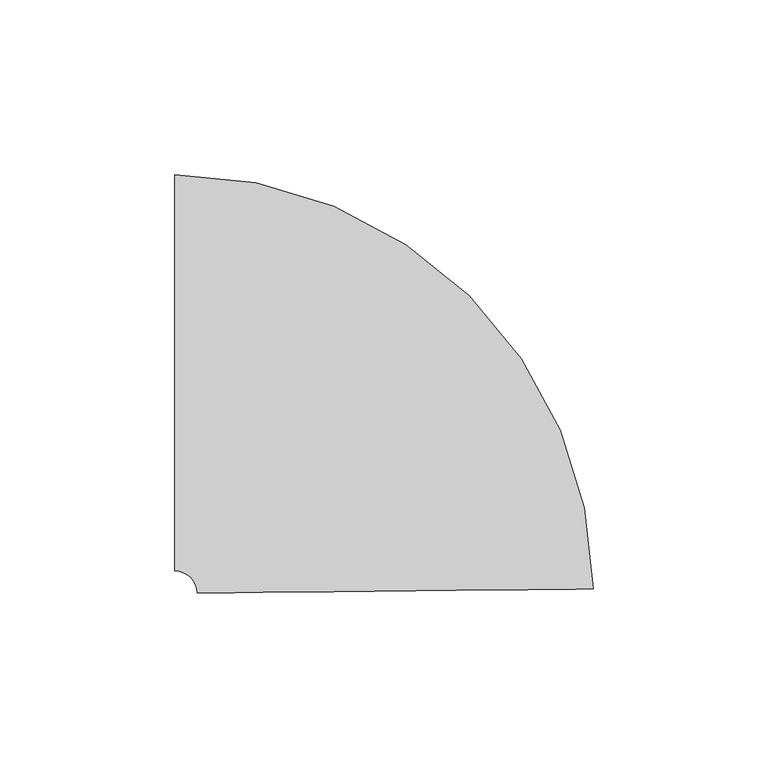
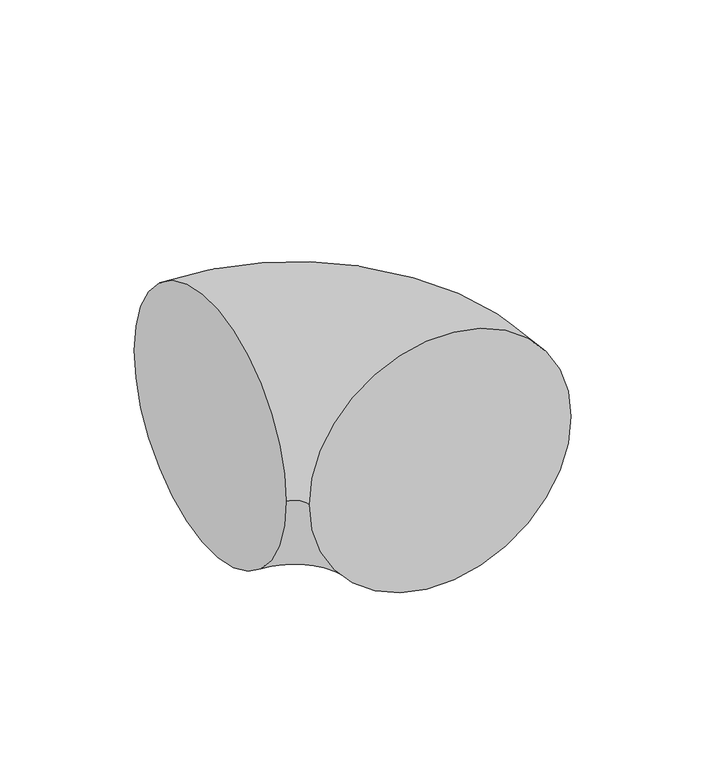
"""IFC4 building model written with IfcOpenShell, lengths in millimetres: pipe fitting geometry, M_Codo - Genérico : Estándar."""

from ifc_helpers import new_model, si_unit, point, frame, origin, place, context, project, spatial, circle_curve, ellipse_curve, trimmed, source, transform, mapped, element, save
from ifc_brep_helpers import plane_surface, revolved_surface, advanced_brep


def pipe_fitting_5746b48a(model_context):
    return source(origin(), model_context, "Body", "AdvancedBrep", [
        advanced_brep(
        [(-62.3113382, 56.5875, 0.0), (-62.3113382, -56.5875, 0.0), (57.2076873, -61.7424371, 0.0), (-55.9616556, -62.8740099, 0.0)],
        [
            (0, 1, circle_curve(frame((-62.3113382, 0.0, 0.0), z_axis=(-1.0, 0.0, 0.0), x_axis=(0.0, -1.0, 0.0)), 56.5875)),
            (1, 0, circle_curve(frame((-62.3113382, 0.0, 0.0), z_axis=(-1.0, 0.0, 0.0), x_axis=(0.0, -1.0, 0.0)), 56.5875)),
            (2, 3, circle_curve(frame((0.6230158, -62.3082235, 0.0), z_axis=(0.009998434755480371, -0.9999500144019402, 0.0), x_axis=(-0.9999500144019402, -0.009998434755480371, 0.0)), 56.5875)),
            (3, 2, circle_curve(frame((0.6230158, -62.3082235, 0.0), z_axis=(0.009998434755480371, -0.9999500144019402, 0.0), x_axis=(-0.9999500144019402, -0.009998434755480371, 0.0)), 56.5875)),
            (2, 0, circle_curve(frame((-62.3113382, -62.9375, 0.0), z_axis=(0.0, 0.0, 1.0), x_axis=(0.0, 1.0, 0.0)), 119.525)),
            (1, 3, circle_curve(frame((-62.3113382, -62.9375, 0.0), z_axis=(0.0, 0.0, -1.0), x_axis=(0.0, 1.0, 0.0)), 6.35)),
        ],
        [
            plane_surface(frame((-62.3113382, 0.0, 0.0), z_axis=(-1.0, 0.0, 0.0), x_axis=(0.0, 0.0, 1.0))),
            plane_surface(frame((0.6230158, -62.3082235, 0.0), z_axis=(0.009998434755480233, -0.9999500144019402, 0.0), x_axis=(0.0, 0.0, 1.0))),
            revolved_surface(trimmed(ellipse_curve(frame((-62.3113382, 0.0, 0.0), z_axis=(1.0, 0.0, 0.0), x_axis=(0.0, -1.0, 0.0)), 56.5875, 56.5875), [point((-62.3113382, 56.5875, 0.0))], [point((-62.3113382, -56.5875, 0.0))], True, "CARTESIAN"), (-62.3113382, -62.9375, 0.0), (0.0, 0.0, 1.0)),
            revolved_surface(trimmed(ellipse_curve(frame((-62.3113382, 0.0, 0.0), z_axis=(1.0, 0.0, 0.0), x_axis=(0.0, -1.0, 0.0)), 56.5875, 56.5875), [point((-62.3113382, -56.5875, 0.0))], [point((-62.3113382, 56.5875, 0.0))], True, "CARTESIAN"), (-62.3113382, -62.9375, 0.0), (0.0, 0.0, 1.0)),
        ],
        [
            (0, [[1, 2]]),
            (1, [[3, 4]]),
            (2, [[-3, 5, -2, 6]]),
            (3, [[-4, -6, -1, -5]]),
        ],
    ),
    ])


if __name__ == "__main__":
    model = new_model("IFC4")
    model_context = context("Model", 3, world=origin())
    ifc_project = project(units=[si_unit("LENGTHUNIT", "METRE", prefix="MILLI")], contexts=[model_context])
    site = spatial("IfcSite", under=ifc_project)
    building = spatial("IfcBuilding", under=site)
    placement = place(None, origin())
    pipe_fitting_shape = pipe_fitting_5746b48a(model_context)
    element("IfcPipeFitting", 1, ObjectType="M_Codo - Genérico : Estándar", at=placement, inside=building, context=model_context, shape_type="MappedRepresentation", body=[
        mapped(pipe_fitting_shape, transform((0.0, 0.0, 0.0), x_axis=(1.0, 0.0, 0.0), y_axis=(0.0, 1.0, 0.0), z_axis=(0.0, 0.0, 1.0))),
    ])
    save(model, "model.ifc")
